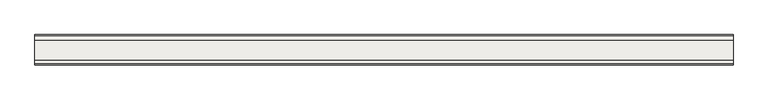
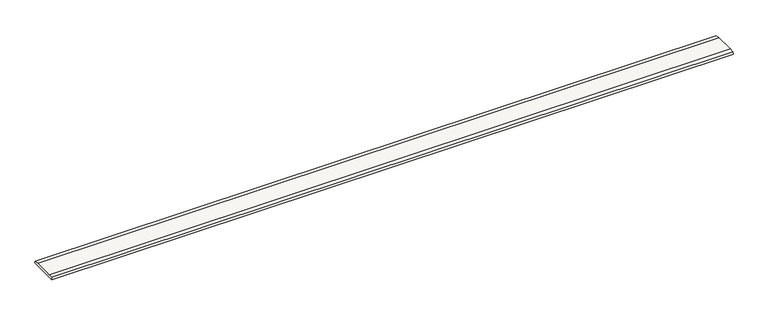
"""IFC4 building model written with IfcOpenShell, lengths in millimetres: slab geometry, ROSA GRES_245 FL_Colocación en plano : Rejilla 245 FL_Tresor_Java_Anti-Slip."""

from ifc_helpers import new_model, si_unit, point, frame, frame_2d, origin, place, context, project, spatial, polyline, circle_curve, trimmed, segment, composite_curve, outline, extrude, source, transform, mapped, element, save


def slab_16e6cf99(model_context):
    return source(origin(), model_context, "Body", "SweptSolid", [
        extrude(outline(composite_curve([segment(polyline([(238.1232639, -3.0209998), (244.0502169, -22.0), (0.9482737, -22.0), (6.8503894, -3.0704499)]), True, "CONTINUOUS"), segment(trimmed(circle_curve(frame_2d((86.2847076, -720.2412375)), 721.556477), [point((6.8503894, -3.0704499))], [point((42.7380732, 0.0))], False, "CARTESIAN"), True, "CONTINUOUS"), segment(polyline([(42.7380732, 0.0), (202.6833158, 0.0)]), True, "CONTINUOUS"), segment(trimmed(circle_curve(frame_2d((159.1366814, -720.2412375)), 721.556477), [point((202.6833158, 0.0))], [point((238.1232639, -3.0209998))], False, "CARTESIAN"), True, "CONTINUOUS")], self_intersect=False)), frame((0.0, 0.0, 0.0), z_axis=(1.0, 0.0, 0.0), x_axis=(0.0, 1.0, 0.0)), (0.0, 0.0, 1.0), 5600.0),
    ])


if __name__ == "__main__":
    model = new_model("IFC4")
    model_context = context("Model", 3, world=origin())
    ifc_project = project(units=[si_unit("LENGTHUNIT", "METRE", prefix="MILLI")], contexts=[model_context])
    site = spatial("IfcSite", under=ifc_project)
    building = spatial("IfcBuilding", under=site)
    placement = place(None, origin())
    slab_shape = slab_16e6cf99(model_context)
    element("IfcSlab", 1, ObjectType="ROSA GRES_245 FL_Colocación en plano : Rejilla 245 FL_Tresor_Java_Anti-Slip", at=placement, inside=building, context=model_context, shape_type="MappedRepresentation", body=[
        mapped(slab_shape, transform((0.0, 0.0, 0.0), x_axis=(1.0, 0.0, 0.0), y_axis=(0.0, 1.0, 0.0), z_axis=(0.0, 0.0, 1.0))),
    ])
    save(model, "model.ifc")
